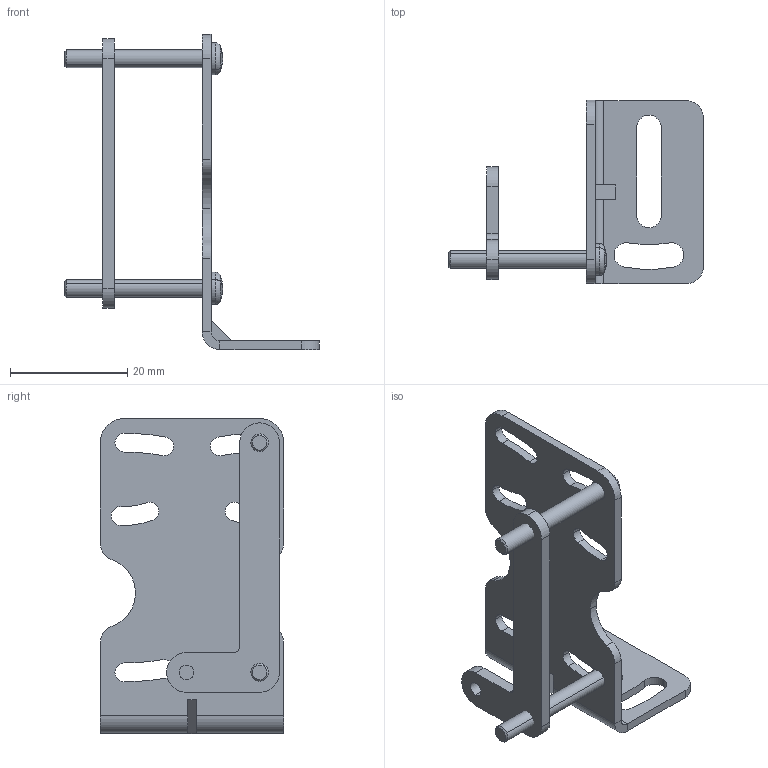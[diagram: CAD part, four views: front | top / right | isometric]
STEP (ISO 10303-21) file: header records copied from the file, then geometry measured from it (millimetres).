
FILE_DESCRIPTION (( 'STEP AP214' ), '1' );
FILE_NAME ('260414311.STEP', '2026-04-14T01:16:18', ( '' ), ( '' ), 'SwSTEP 2.0', 'SolidWorks 2023', '' );
FILE_SCHEMA (( 'AUTOMOTIVE_DESIGN' ));
Length unit declared in the file: millimetre
Products named in the file (4): 2512101425; 2511121043_L字; 260414311; 2512101431_CSPPN-STC-M3-25
Assembly tree (4 placements, depth 2):
  260414311
    2511121043_L字
    2512101425
    2512101431_CSPPN-STC-M3-25  x2
Bounding box: 43.5 x 31.3 x 53.8 mm (x, y, z)
Volume: 3874.9 mm3; surface area: 5950.9 mm2
Topology: 4 solids, 4 shells, 141 faces, 377 edges, 246 vertices
Faces by surface type: cylinder 71, plane 58, cone 4, torus 4, sphere 4
Entity records: 3894 total; most frequent: DIRECTION 719, CARTESIAN_POINT 644, ORIENTED_EDGE 630, EDGE_CURVE 315, AXIS2_PLACEMENT_3D 281, VERTEX_POINT 206, CIRCLE 158, LINE 157
